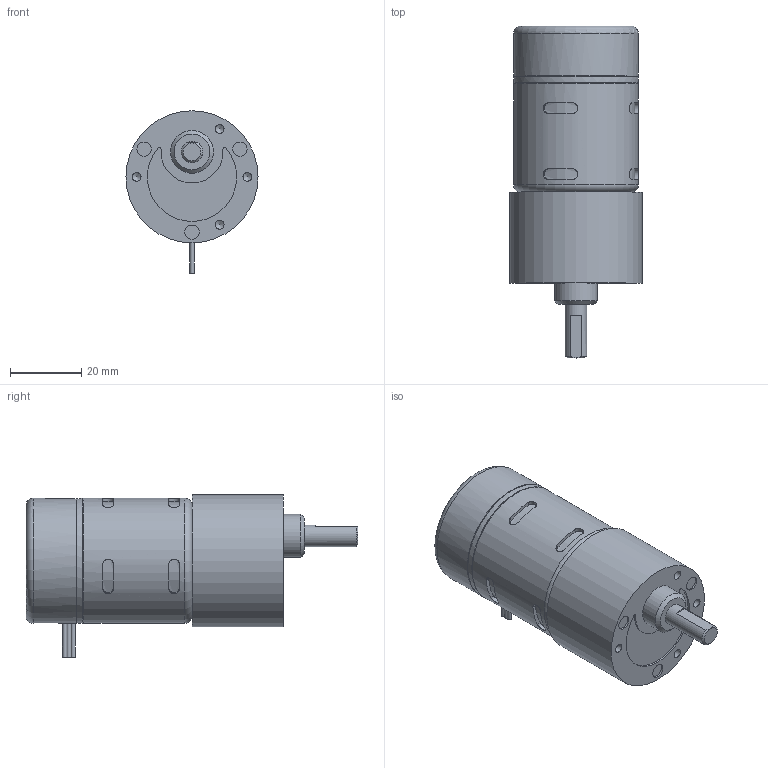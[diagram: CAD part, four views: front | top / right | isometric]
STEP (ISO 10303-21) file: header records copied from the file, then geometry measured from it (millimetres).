
FILE_DESCRIPTION((''),'2;1');
FILE_NAME('C:\Documents and Settings\SSEGAWA\デスクトップ\TP-3546B-KM-3.STP','2013-07-30T15:51:29',('SSEGAWA'),(''),'Autodesk Inventor 2010','Autodesk Inventor 2010','');
FILE_SCHEMA(('CONFIG_CONTROL_DESIGN'));
Length unit declared in the file: millimetre
Products named in the file (1): tp_3546bd_km_3_Shrinkwrap_1
Bounding box: 37 x 93 x 45.5 mm (x, y, z)
Volume: 72558.5 mm3; surface area: 11591.8 mm2
Topology: 1 solids, 5 shells, 106 faces, 237 edges, 153 vertices
Faces by surface type: plane 43, cylinder 43, bspline 16, torus 2, cone 2
Full cylindrical faces by diameter (mm): 1.2 x2, 4 x3, 6 x1, 12 x1, 34.6 x1, 35 x3, 37 x1
Entity records: 3466 total; most frequent: CARTESIAN_POINT 1264, DIRECTION 429, ORIENTED_EDGE 376, EDGE_CURVE 188, AXIS2_PLACEMENT_3D 184, EDGE_LOOP 149, VERTEX_POINT 133, STYLED_ITEM 107
